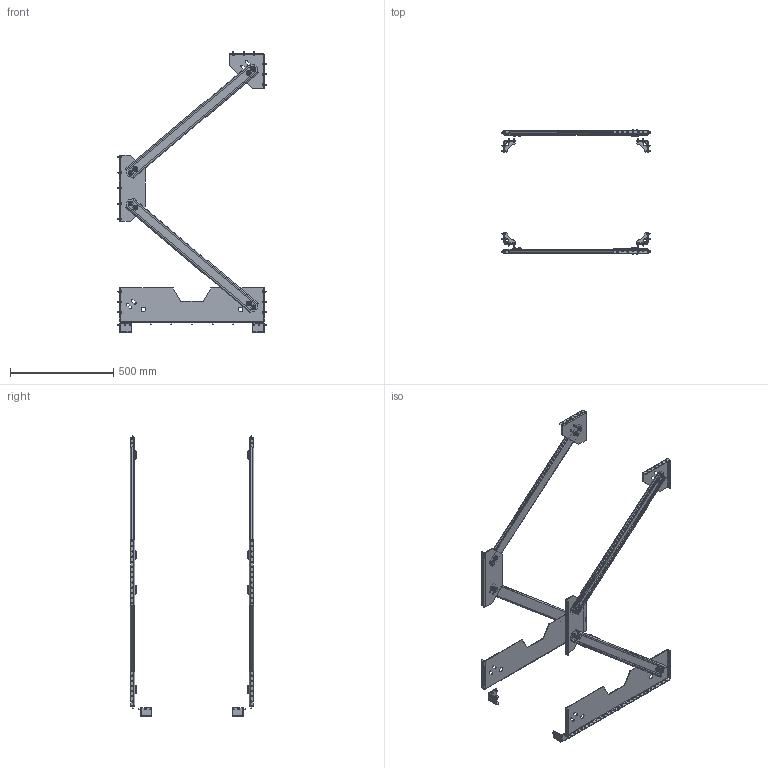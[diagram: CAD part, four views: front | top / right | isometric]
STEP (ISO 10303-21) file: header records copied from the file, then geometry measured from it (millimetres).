
FILE_DESCRIPTION(('STEP AP203'), '1');
FILE_NAME('3950.140.80 Ñåéñìîêîìïëåêò 1400õ800', '', ('UNSPECIFIED'), ('UNSPECIFIED'), 'C3D Converter', 'C3D Toolkit', '');
FILE_SCHEMA(('CONFIG_CONTROL_DESIGN'));
Length unit declared in the file: millimetre
Products named in the file (21): 3950.140.80; 3950.01; 3950.02; 3950.03.80; 3950.04; 3950.05.140.80
Assembly tree (158 placements, depth 2):
  3950.140.80
    3950.01  x2
    3950.02
    3950.03.80
    3950.04
    3950.05.140.80  x2
    (unnamed)  x16
    (unnamed)  x8
    (unnamed)  x8
    (unnamed)  x8
    (unnamed)  x40
    (unnamed)  x24
    (unnamed)  x8
    (unnamed)  x8
    (unnamed)  x8
    (unnamed)  x16
    3950.05.140.80  x2
    3950.04
    3950.03.80
    3950.02
    3950.01  x2
Bounding box: 722 x 598 x 1359.5 mm (x, y, z)
Volume: 2277299 mm3; surface area: 1606557 mm2
Topology: 158 solids, 158 shells, 3114 faces, 7274 edges, 4652 vertices
Faces by surface type: plane 1378, cone 608, cylinder 600, bspline 384, torus 144
Full cylindrical faces by diameter (mm): 4.8 x64, 6 x16, 6.5 x128, 6.647 x16, 8 x16, 9 x40, 14 x4, 22 x4, 24 x32
Entity records: 33514 total; most frequent: CARTESIAN_POINT 10719, DIRECTION 4102, ORIENTED_EDGE 3336, EDGE_CURVE 1668, AXIS2_PLACEMENT_3D 1629, EDGE_LOOP 1276, VERTEX_POINT 1152, FACE_BOUND 932
